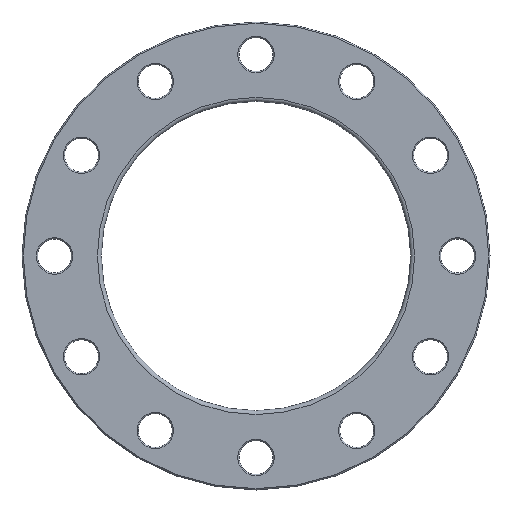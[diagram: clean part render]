
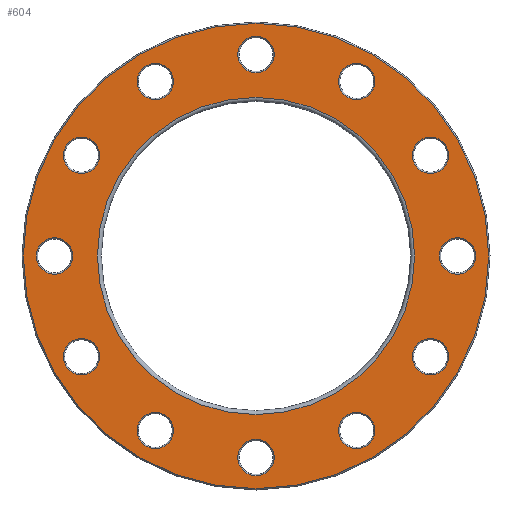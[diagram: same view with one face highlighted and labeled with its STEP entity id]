
A CAD part, front view. The second image highlights one B-rep face of the part: STEP entity #604.
In plain terms, the highlighted planar face has unit normal (0, -1, 0).
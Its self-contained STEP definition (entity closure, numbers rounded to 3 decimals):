
#23=PLANE('',#712);
#134=ORIENTED_EDGE('',*,*,#213,.T.);
#135=ORIENTED_EDGE('',*,*,#214,.T.);
#136=ORIENTED_EDGE('',*,*,#164,.T.);
#137=ORIENTED_EDGE('',*,*,#168,.T.);
#138=ORIENTED_EDGE('',*,*,#172,.T.);
#139=ORIENTED_EDGE('',*,*,#176,.T.);
#140=ORIENTED_EDGE('',*,*,#180,.T.);
#141=ORIENTED_EDGE('',*,*,#184,.T.);
#142=ORIENTED_EDGE('',*,*,#188,.T.);
#143=ORIENTED_EDGE('',*,*,#192,.T.);
#144=ORIENTED_EDGE('',*,*,#196,.T.);
#145=ORIENTED_EDGE('',*,*,#200,.T.);
#146=ORIENTED_EDGE('',*,*,#204,.T.);
#147=ORIENTED_EDGE('',*,*,#215,.T.);
#164=EDGE_CURVE('',#220,#220,#276,.T.);
#168=EDGE_CURVE('',#224,#224,#280,.T.);
#172=EDGE_CURVE('',#228,#228,#284,.T.);
#176=EDGE_CURVE('',#232,#232,#288,.T.);
#180=EDGE_CURVE('',#236,#236,#292,.T.);
#184=EDGE_CURVE('',#240,#240,#296,.T.);
#188=EDGE_CURVE('',#244,#244,#300,.T.);
#192=EDGE_CURVE('',#248,#248,#304,.T.);
#196=EDGE_CURVE('',#252,#252,#308,.T.);
#200=EDGE_CURVE('',#256,#256,#312,.T.);
#204=EDGE_CURVE('',#260,#260,#316,.T.);
#213=EDGE_CURVE('',#269,#269,#325,.F.);
#214=EDGE_CURVE('',#270,#270,#326,.T.);
#215=EDGE_CURVE('',#271,#271,#327,.T.);
#220=VERTEX_POINT('',#935);
#224=VERTEX_POINT('',#946);
#228=VERTEX_POINT('',#957);
#232=VERTEX_POINT('',#968);
#236=VERTEX_POINT('',#979);
#240=VERTEX_POINT('',#990);
#244=VERTEX_POINT('',#1001);
#248=VERTEX_POINT('',#1012);
#252=VERTEX_POINT('',#1023);
#256=VERTEX_POINT('',#1034);
#260=VERTEX_POINT('',#1045);
#269=VERTEX_POINT('',#1068);
#270=VERTEX_POINT('',#1070);
#271=VERTEX_POINT('',#1072);
#276=CIRCLE('',#629,14.);
#280=CIRCLE('',#636,14.);
#284=CIRCLE('',#643,14.);
#288=CIRCLE('',#650,14.);
#292=CIRCLE('',#657,14.);
#296=CIRCLE('',#664,14.);
#300=CIRCLE('',#671,14.);
#304=CIRCLE('',#678,14.);
#308=CIRCLE('',#685,14.);
#312=CIRCLE('',#692,14.);
#316=CIRCLE('',#699,14.);
#325=CIRCLE('',#713,179.);
#326=CIRCLE('',#714,122.);
#327=CIRCLE('',#715,14.);
#414=EDGE_LOOP('',(#134));
#415=EDGE_LOOP('',(#135));
#416=EDGE_LOOP('',(#136));
#417=EDGE_LOOP('',(#137));
#418=EDGE_LOOP('',(#138));
#419=EDGE_LOOP('',(#139));
#420=EDGE_LOOP('',(#140));
#421=EDGE_LOOP('',(#141));
#422=EDGE_LOOP('',(#142));
#423=EDGE_LOOP('',(#143));
#424=EDGE_LOOP('',(#144));
#425=EDGE_LOOP('',(#145));
#426=EDGE_LOOP('',(#146));
#427=EDGE_LOOP('',(#147));
#526=FACE_BOUND('',#414,.T.);
#527=FACE_BOUND('',#415,.T.);
#528=FACE_BOUND('',#416,.T.);
#529=FACE_BOUND('',#417,.T.);
#530=FACE_BOUND('',#418,.T.);
#531=FACE_BOUND('',#419,.T.);
#532=FACE_BOUND('',#420,.T.);
#533=FACE_BOUND('',#421,.T.);
#534=FACE_BOUND('',#422,.T.);
#535=FACE_BOUND('',#423,.T.);
#536=FACE_BOUND('',#424,.T.);
#537=FACE_BOUND('',#425,.T.);
#538=FACE_BOUND('',#426,.T.);
#539=FACE_BOUND('',#427,.T.);
#604=ADVANCED_FACE('',(#526,#527,#528,#529,#530,#531,#532,#533,#534,#535,
#536,#537,#538,#539),#23,.F.);
#629=AXIS2_PLACEMENT_3D('',#934,#735,#736);
#636=AXIS2_PLACEMENT_3D('',#945,#749,#750);
#643=AXIS2_PLACEMENT_3D('',#956,#763,#764);
#650=AXIS2_PLACEMENT_3D('',#967,#777,#778);
#657=AXIS2_PLACEMENT_3D('',#978,#791,#792);
#664=AXIS2_PLACEMENT_3D('',#989,#805,#806);
#671=AXIS2_PLACEMENT_3D('',#1000,#819,#820);
#678=AXIS2_PLACEMENT_3D('',#1011,#833,#834);
#685=AXIS2_PLACEMENT_3D('',#1022,#847,#848);
#692=AXIS2_PLACEMENT_3D('',#1033,#861,#862);
#699=AXIS2_PLACEMENT_3D('',#1044,#875,#876);
#712=AXIS2_PLACEMENT_3D('',#1066,#901,#902);
#713=AXIS2_PLACEMENT_3D('',#1067,#903,#904);
#714=AXIS2_PLACEMENT_3D('',#1069,#905,#906);
#715=AXIS2_PLACEMENT_3D('',#1071,#907,#908);
#735=DIRECTION('',(0.,1.,0.));
#736=DIRECTION('',(0.866,0.,0.5));
#749=DIRECTION('',(0.,1.,0.));
#750=DIRECTION('',(0.5,0.,0.866));
#763=DIRECTION('',(0.,1.,0.));
#764=DIRECTION('',(0.,0.,1.));
#777=DIRECTION('',(0.,1.,0.));
#778=DIRECTION('',(-0.5,0.,0.866));
#791=DIRECTION('',(0.,1.,0.));
#792=DIRECTION('',(-0.866,0.,0.5));
#805=DIRECTION('',(0.,1.,0.));
#806=DIRECTION('',(-1.,0.,0.));
#819=DIRECTION('',(0.,1.,0.));
#820=DIRECTION('',(-0.866,0.,-0.5));
#833=DIRECTION('',(0.,1.,0.));
#834=DIRECTION('',(-0.5,0.,-0.866));
#847=DIRECTION('',(0.,1.,0.));
#848=DIRECTION('',(0.,0.,-1.));
#861=DIRECTION('',(0.,1.,0.));
#862=DIRECTION('',(0.5,0.,-0.866));
#875=DIRECTION('',(0.,1.,0.));
#876=DIRECTION('',(0.866,0.,-0.5));
#901=DIRECTION('',(0.,1.,0.));
#902=DIRECTION('',(0.,0.,1.));
#903=DIRECTION('',(0.,1.,0.));
#904=DIRECTION('',(0.,0.,1.));
#905=DIRECTION('',(0.,1.,0.));
#906=DIRECTION('',(0.,0.,1.));
#907=DIRECTION('',(0.,1.,0.));
#908=DIRECTION('',(1.,0.,0.));
#934=CARTESIAN_POINT('',(-77.5,0.,134.234));
#935=CARTESIAN_POINT('',(-65.376,0.,141.234));
#945=CARTESIAN_POINT('',(-134.234,0.,77.5));
#946=CARTESIAN_POINT('',(-127.234,0.,89.624));
#956=CARTESIAN_POINT('',(-155.,0.,0.));
#957=CARTESIAN_POINT('',(-155.,0.,14.));
#967=CARTESIAN_POINT('',(-134.234,0.,-77.5));
#968=CARTESIAN_POINT('',(-141.234,0.,-65.376));
#978=CARTESIAN_POINT('',(-77.5,0.,-134.234));
#979=CARTESIAN_POINT('',(-89.624,0.,-127.234));
#989=CARTESIAN_POINT('',(0.,0.,-155.));
#990=CARTESIAN_POINT('',(-14.,0.,-155.));
#1000=CARTESIAN_POINT('',(77.5,0.,-134.234));
#1001=CARTESIAN_POINT('',(65.376,0.,-141.234));
#1011=CARTESIAN_POINT('',(134.234,0.,-77.5));
#1012=CARTESIAN_POINT('',(127.234,0.,-89.624));
#1022=CARTESIAN_POINT('',(155.,0.,0.));
#1023=CARTESIAN_POINT('',(155.,0.,-14.));
#1033=CARTESIAN_POINT('',(134.234,0.,77.5));
#1034=CARTESIAN_POINT('',(141.234,0.,65.376));
#1044=CARTESIAN_POINT('',(77.5,0.,134.234));
#1045=CARTESIAN_POINT('',(89.624,0.,127.234));
#1066=CARTESIAN_POINT('',(0.,0.,0.));
#1067=CARTESIAN_POINT('',(0.,0.,0.));
#1068=CARTESIAN_POINT('',(0.,0.,179.));
#1069=CARTESIAN_POINT('',(0.,0.,0.));
#1070=CARTESIAN_POINT('',(0.,0.,122.));
#1071=CARTESIAN_POINT('',(0.,0.,155.));
#1072=CARTESIAN_POINT('',(14.,0.,155.));
